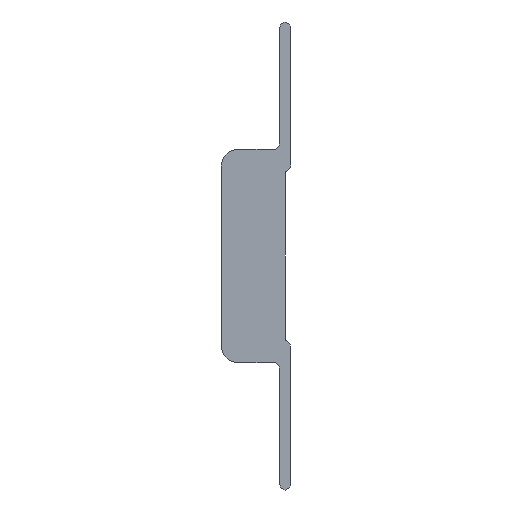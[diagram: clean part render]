
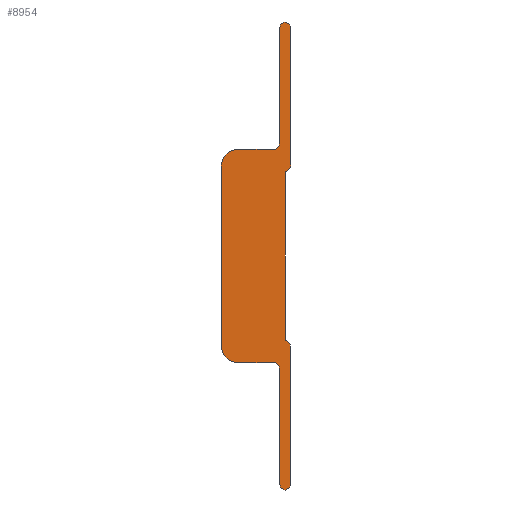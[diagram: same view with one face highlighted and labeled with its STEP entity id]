
A CAD part, left-side view. The second image highlights one B-rep face of the part: STEP entity #8954.
In plain terms, the highlighted planar face has unit normal (-1, 0, 0).
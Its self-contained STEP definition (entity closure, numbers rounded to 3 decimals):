
#336=PLANE('',#9278);
#1394=FACE_OUTER_BOUND('',#1924,.T.);
#1924=EDGE_LOOP('',(#8449,#8450,#8451,#8452,#8453,#8454,#8455,#8456,#8457,
#8458,#8459,#8460,#8461,#8462,#8463,#8464));
#1926=CIRCLE('',#8971,0.508);
#1939=CIRCLE('',#9250,0.508);
#1941=CIRCLE('',#9254,0.508);
#1943=CIRCLE('',#9258,1.524);
#1945=CIRCLE('',#9262,1.524);
#1947=CIRCLE('',#9266,0.508);
#1949=CIRCLE('',#9270,0.508);
#1951=CIRCLE('',#9274,0.508);
#2803=LINE('',#16629,#3683);
#2807=LINE('',#16641,#3687);
#2811=LINE('',#16653,#3691);
#2815=LINE('',#16665,#3695);
#2819=LINE('',#16677,#3699);
#2823=LINE('',#16689,#3703);
#2827=LINE('',#16701,#3707);
#2832=LINE('',#16713,#3712);
#3683=VECTOR('',#10691,10.);
#3687=VECTOR('',#10703,10.);
#3691=VECTOR('',#10715,10.);
#3695=VECTOR('',#10727,10.);
#3699=VECTOR('',#10739,10.);
#3703=VECTOR('',#10751,10.);
#3707=VECTOR('',#10763,10.);
#3712=VECTOR('',#10776,10.);
#3714=VERTEX_POINT('',#10784);
#3716=VERTEX_POINT('',#10788);
#4549=VERTEX_POINT('',#16628);
#4551=VERTEX_POINT('',#16634);
#4553=VERTEX_POINT('',#16640);
#4555=VERTEX_POINT('',#16646);
#4557=VERTEX_POINT('',#16652);
#4559=VERTEX_POINT('',#16658);
#4561=VERTEX_POINT('',#16664);
#4563=VERTEX_POINT('',#16670);
#4565=VERTEX_POINT('',#16676);
#4567=VERTEX_POINT('',#16682);
#4569=VERTEX_POINT('',#16688);
#4571=VERTEX_POINT('',#16694);
#4573=VERTEX_POINT('',#16700);
#4576=VERTEX_POINT('',#16707);
#4580=EDGE_CURVE('',#3716,#3714,#1926,.T.);
#5829=EDGE_CURVE('',#3716,#4549,#2803,.T.);
#5832=EDGE_CURVE('',#4551,#4549,#1939,.T.);
#5835=EDGE_CURVE('',#4551,#4553,#2807,.T.);
#5838=EDGE_CURVE('',#4553,#4555,#1941,.T.);
#5841=EDGE_CURVE('',#4557,#4555,#2811,.T.);
#5844=EDGE_CURVE('',#4559,#4557,#1943,.T.);
#5847=EDGE_CURVE('',#4559,#4561,#2815,.T.);
#5850=EDGE_CURVE('',#4563,#4561,#1945,.T.);
#5853=EDGE_CURVE('',#4563,#4565,#2819,.T.);
#5856=EDGE_CURVE('',#4565,#4567,#1947,.T.);
#5859=EDGE_CURVE('',#4567,#4569,#2823,.T.);
#5862=EDGE_CURVE('',#4571,#4569,#1949,.T.);
#5865=EDGE_CURVE('',#4571,#4573,#2827,.T.);
#5869=EDGE_CURVE('',#4576,#4573,#1951,.T.);
#5872=EDGE_CURVE('',#4576,#3714,#2832,.T.);
#8449=ORIENTED_EDGE('',*,*,#4580,.F.);
#8450=ORIENTED_EDGE('',*,*,#5829,.T.);
#8451=ORIENTED_EDGE('',*,*,#5832,.F.);
#8452=ORIENTED_EDGE('',*,*,#5835,.T.);
#8453=ORIENTED_EDGE('',*,*,#5838,.T.);
#8454=ORIENTED_EDGE('',*,*,#5841,.F.);
#8455=ORIENTED_EDGE('',*,*,#5844,.F.);
#8456=ORIENTED_EDGE('',*,*,#5847,.T.);
#8457=ORIENTED_EDGE('',*,*,#5850,.F.);
#8458=ORIENTED_EDGE('',*,*,#5853,.T.);
#8459=ORIENTED_EDGE('',*,*,#5856,.T.);
#8460=ORIENTED_EDGE('',*,*,#5859,.T.);
#8461=ORIENTED_EDGE('',*,*,#5862,.F.);
#8462=ORIENTED_EDGE('',*,*,#5865,.T.);
#8463=ORIENTED_EDGE('',*,*,#5869,.F.);
#8464=ORIENTED_EDGE('',*,*,#5872,.T.);
#8954=ADVANCED_FACE('',(#1394),#336,.F.);
#8971=AXIS2_PLACEMENT_3D('',#10790,#9287,#9288);
#9250=AXIS2_PLACEMENT_3D('',#16635,#10696,#10697);
#9254=AXIS2_PLACEMENT_3D('',#16647,#10708,#10709);
#9258=AXIS2_PLACEMENT_3D('',#16659,#10720,#10721);
#9262=AXIS2_PLACEMENT_3D('',#16671,#10732,#10733);
#9266=AXIS2_PLACEMENT_3D('',#16683,#10744,#10745);
#9270=AXIS2_PLACEMENT_3D('',#16695,#10756,#10757);
#9274=AXIS2_PLACEMENT_3D('',#16709,#10769,#10770);
#9278=AXIS2_PLACEMENT_3D('',#16715,#10779,#10780);
#9287=DIRECTION('center_axis',(1.,0.,0.));
#9288=DIRECTION('ref_axis',(0.,0.,-1.));
#10691=DIRECTION('',(0.,0.,1.));
#10696=DIRECTION('center_axis',(1.,0.,0.));
#10697=DIRECTION('ref_axis',(0.,0.,-1.));
#10703=DIRECTION('',(0.,0.,-1.));
#10708=DIRECTION('center_axis',(1.,0.,0.));
#10709=DIRECTION('ref_axis',(0.,-1.,0.));
#10715=DIRECTION('',(0.,-1.,0.));
#10720=DIRECTION('center_axis',(1.,0.,0.));
#10721=DIRECTION('ref_axis',(0.,0.333,-0.943));
#10727=DIRECTION('',(0.,0.,-1.));
#10732=DIRECTION('center_axis',(1.,0.,0.));
#10733=DIRECTION('ref_axis',(0.,-0.943,-0.333));
#10739=DIRECTION('',(0.,-1.,0.));
#10744=DIRECTION('center_axis',(1.,0.,0.));
#10745=DIRECTION('ref_axis',(0.,0.,1.));
#10751=DIRECTION('',(0.,0.,-1.));
#10756=DIRECTION('center_axis',(1.,0.,0.));
#10757=DIRECTION('ref_axis',(0.,0.,-1.));
#10763=DIRECTION('',(0.,0.,1.));
#10769=DIRECTION('center_axis',(1.,0.,0.));
#10770=DIRECTION('ref_axis',(0.,0.,-1.));
#10776=DIRECTION('',(0.,0.,1.));
#10779=DIRECTION('center_axis',(1.,0.,0.));
#10780=DIRECTION('ref_axis',(0.,0.,-1.));
#10784=CARTESIAN_POINT('',(0.,0.,-13.208));
#10788=CARTESIAN_POINT('',(0.,-0.508,-12.7));
#10790=CARTESIAN_POINT('Origin',(0.,0.,-12.7));
#16628=CARTESIAN_POINT('',(0.,-0.508,0.));
#16629=CARTESIAN_POINT('',(0.,-0.508,-12.7));
#16634=CARTESIAN_POINT('',(0.,0.508,0.));
#16635=CARTESIAN_POINT('Origin',(0.,0.,0.));
#16640=CARTESIAN_POINT('',(0.,0.508,-10.668));
#16641=CARTESIAN_POINT('',(0.,0.508,0.));
#16646=CARTESIAN_POINT('',(0.,1.016,-11.176));
#16647=CARTESIAN_POINT('Origin',(0.,1.016,-10.668));
#16652=CARTESIAN_POINT('',(0.,4.318,-11.176));
#16653=CARTESIAN_POINT('',(0.,4.318,-11.176));
#16658=CARTESIAN_POINT('',(0.,5.842,-12.7));
#16659=CARTESIAN_POINT('Origin',(0.,4.318,-12.7));
#16664=CARTESIAN_POINT('',(0.,5.842,-29.21));
#16665=CARTESIAN_POINT('',(0.,5.842,-12.7));
#16670=CARTESIAN_POINT('',(0.,4.318,-30.734));
#16671=CARTESIAN_POINT('Origin',(0.,4.318,-29.21));
#16676=CARTESIAN_POINT('',(0.,1.016,-30.734));
#16677=CARTESIAN_POINT('',(0.,4.318,-30.734));
#16682=CARTESIAN_POINT('',(0.,0.508,-31.242));
#16683=CARTESIAN_POINT('Origin',(0.,1.016,-31.242));
#16688=CARTESIAN_POINT('',(0.,0.508,-41.91));
#16689=CARTESIAN_POINT('',(0.,0.508,-29.21));
#16694=CARTESIAN_POINT('',(0.,-0.508,-41.91));
#16695=CARTESIAN_POINT('Origin',(0.,0.,-41.91));
#16700=CARTESIAN_POINT('',(0.,-0.508,-29.21));
#16701=CARTESIAN_POINT('',(0.,-0.508,-41.91));
#16707=CARTESIAN_POINT('',(0.,0.,-28.702));
#16709=CARTESIAN_POINT('Origin',(0.,0.,-29.21));
#16713=CARTESIAN_POINT('',(0.,0.,-28.702));
#16715=CARTESIAN_POINT('Origin',(0.,2.413,-20.955));
